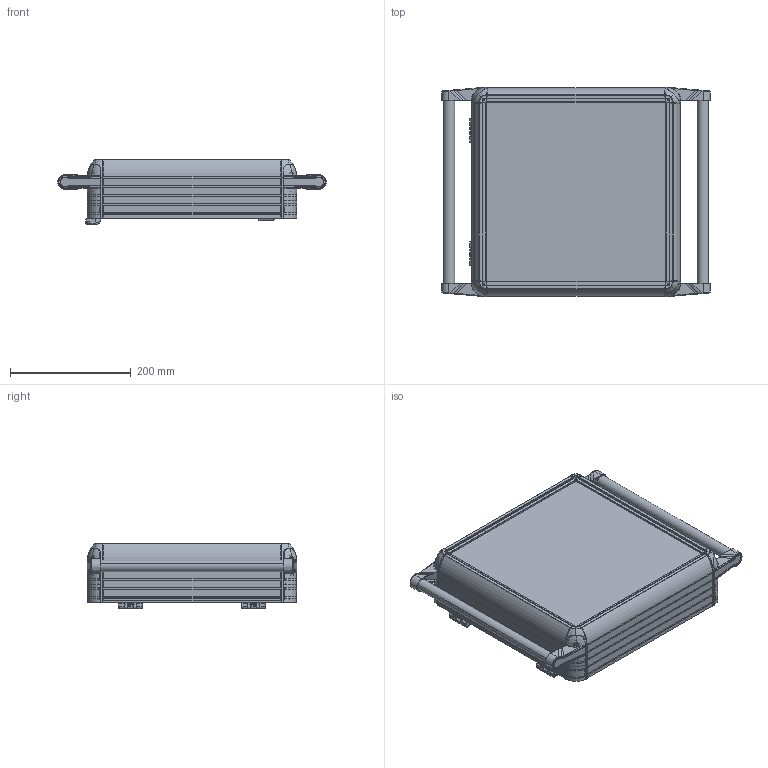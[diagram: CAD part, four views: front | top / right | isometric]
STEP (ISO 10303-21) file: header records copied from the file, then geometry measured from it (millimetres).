
FILE_DESCRIPTION (( 'STEP AP214' ), '1' );
FILE_NAME ('9000-0204.STEP', '2022-09-01T06:30:44', ( '' ), ( '' ), 'SwSTEP 2.0', 'SolidWorks 2022', '' );
FILE_SCHEMA (( 'AUTOMOTIVE_DESIGN' ));
Length unit declared in the file: millimetre
Products named in the file (7): ECO9000-0100(SAÐ); boru_325; ECO9000-0100(SOL); HPECO-090-001-295_295; ARKA_KAPAK_300X300; 9000-0204; 300X300
Assembly tree (12 placements, depth 2):
  9000-0204
    300X300
    ARKA_KAPAK_300X300
    boru_325  x2
    ECO9000-0100(SAÐ)  x2
    ECO9000-0100(SOL)  x2
    HPECO-090-001-295_295  x4
Bounding box: 444.57 x 347 x 109.16 mm (x, y, z)
Volume: 2419801.9 mm3; surface area: 968336.9 mm2
Topology: 22 solids, 72 shells, 6677 faces, 17704 edges, 10926 vertices
Faces by surface type: plane 2587, cylinder 1844, bspline 1270, cone 590, torus 332, sphere 54
Entity records: 203823 total; most frequent: CARTESIAN_POINT 55261, ORIENTED_EDGE 23358, DIRECTION 19400, EDGE_CURVE 11679, VERTEX_POINT 7238, AXIS2_PLACEMENT_3D 7104, VECTOR 5192, LINE 5192
